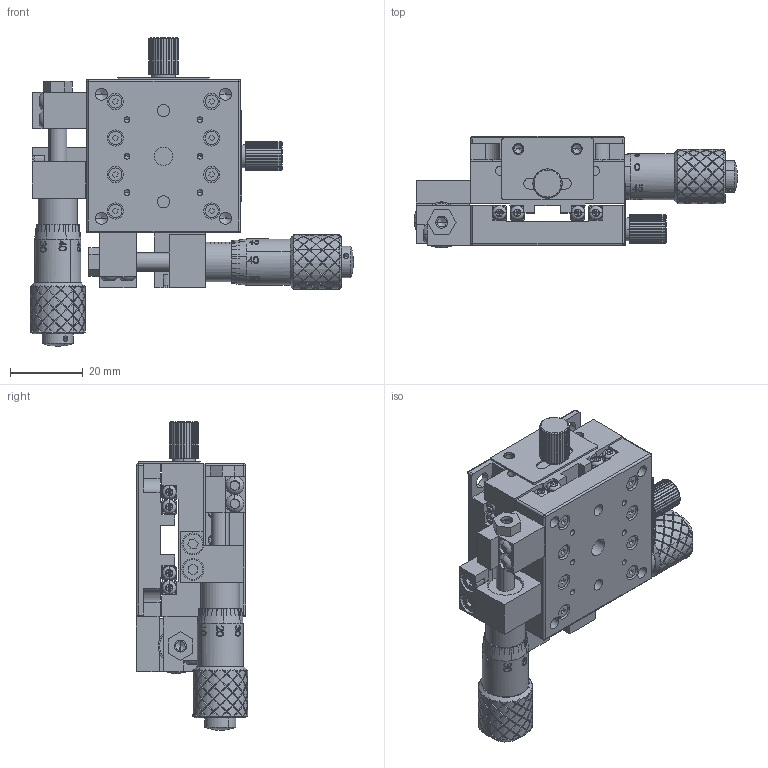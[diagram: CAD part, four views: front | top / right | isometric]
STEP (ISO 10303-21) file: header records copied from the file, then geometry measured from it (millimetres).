
FILE_DESCRIPTION (( 'STEP AP203' ), '1' );
FILE_NAME ('TSS42XY-05(STEP).STEP', '2017-11-24T05:39:35', ( '¦K¬P' ), ( '' ), 'SwSTEP 2.0', 'SolidWorks 2016', '' );
FILE_SCHEMA (( 'CONFIG_CONTROL_DESIGN' ));
Length unit declared in the file: millimetre
Products named in the file (17): 中板; TSS42XY-05(STEP); 面板; M2x0.4P; 底板.SLDASM; M2.5圓頭; 分離卡座-2; M3x0.5P; 頂點座-2; 前管1; TCS-42-1-(3); 螺絲1; 壓片; 後管2; ψ7.5X11.5L; 組合件8; M2x0.4P圓頭
Assembly tree (64 placements, depth 3):
  TSS42XY-05(STEP)
    中板
    面板
    底板.SLDASM
    分離卡座-2  x2
    頂點座-2  x2
    TCS-42-1-(3)  x8
    壓片  x2
    ψ7.5X11.5L  x2
    M2x0.4P圓頭  x16
    M2x0.4P  x16
    M2.5圓頭  x4
    M3x0.5P  x4
    組合件8  x2
      前管1
      螺絲1
      後管2
Bounding box: 88.6 x 30.5 x 84.6 mm (x, y, z)
Volume: 61005.6 mm3; surface area: 51165.4 mm2
Topology: 79 solids, 79 shells, 4338 faces, 11750 edges, 7661 vertices
Faces by surface type: plane 2176, cylinder 1034, bspline 826, cone 246, torus 40, sphere 16
Entity records: 95190 total; most frequent: CARTESIAN_POINT 50058, ORIENTED_EDGE 9808, DIRECTION 7394, EDGE_CURVE 4904, VERTEX_POINT 3232, AXIS2_PLACEMENT_3D 2645, LINE 2104, VECTOR 2104
